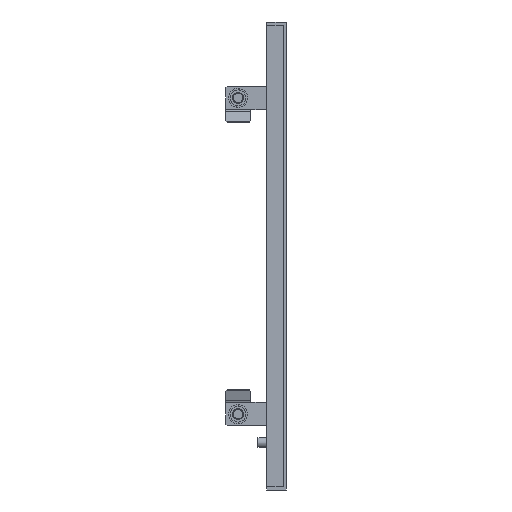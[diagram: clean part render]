
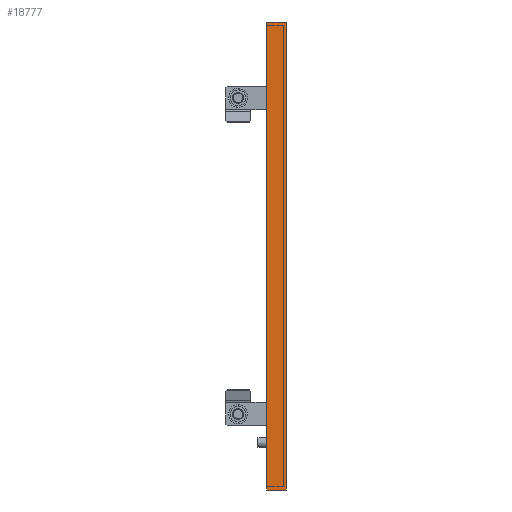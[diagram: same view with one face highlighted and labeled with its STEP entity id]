
A CAD part, front view. The second image highlights one B-rep face of the part: STEP entity #18777.
In plain terms, the highlighted planar face has unit normal (0, -1, 0).
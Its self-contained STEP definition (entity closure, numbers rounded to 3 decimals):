
#431 = CARTESIAN_POINT ( 'NONE',  ( 0., -397.5, -148. ) ) ;
#930 = ORIENTED_EDGE ( 'NONE', *, *, #22024, .F. ) ;
#2326 = ORIENTED_EDGE ( 'NONE', *, *, #18556, .T. ) ;
#2424 = VECTOR ( 'NONE', #13433, 1000. ) ;
#2650 = VECTOR ( 'NONE', #24868, 1000. ) ;
#3313 = LINE ( 'NONE', #19166, #4425 ) ;
#4425 = VECTOR ( 'NONE', #24782, 1000. ) ;
#5634 = LINE ( 'NONE', #15097, #2424 ) ;
#6379 = LINE ( 'NONE', #11634, #12174 ) ;
#7010 = DIRECTION ( 'NONE',  ( 0., 1., 0. ) ) ;
#8652 = VERTEX_POINT ( 'NONE', #17385 ) ;
#9266 = LINE ( 'NONE', #17323, #2650 ) ;
#9739 = AXIS2_PLACEMENT_3D ( 'NONE', #18787, #7010, #20191 ) ;
#10708 = CARTESIAN_POINT ( 'NONE',  ( -12.5, -397.5, -148. ) ) ;
#11359 = CARTESIAN_POINT ( 'NONE',  ( -12.5, -397.5, 148. ) ) ;
#11634 = CARTESIAN_POINT ( 'NONE',  ( -12.5, -397.5, 0. ) ) ;
#12174 = VECTOR ( 'NONE', #13916, 1000. ) ;
#13433 = DIRECTION ( 'NONE',  ( -1., 0., 0. ) ) ;
#13916 = DIRECTION ( 'NONE',  ( 0., 0., -1. ) ) ;
#15097 = CARTESIAN_POINT ( 'NONE',  ( 2.928, -397.5, 148. ) ) ;
#15266 = ORIENTED_EDGE ( 'NONE', *, *, #16325, .T. ) ;
#16325 = EDGE_CURVE ( 'NONE', #17767, #22681, #6379, .T. ) ;
#17323 = CARTESIAN_POINT ( 'NONE',  ( 2.928, -397.5, -148. ) ) ;
#17385 = CARTESIAN_POINT ( 'NONE',  ( 0., -397.5, 148. ) ) ;
#17637 = EDGE_LOOP ( 'NONE', ( #930, #23984, #2326, #15266 ) ) ;
#17767 = VERTEX_POINT ( 'NONE', #11359 ) ;
#18404 = PLANE ( 'NONE',  #9739 ) ;
#18556 = EDGE_CURVE ( 'NONE', #8652, #17767, #5634, .T. ) ;
#18777 = ADVANCED_FACE ( 'NONE', ( #20560 ), #18404, .F. ) ;
#18787 = CARTESIAN_POINT ( 'NONE',  ( -2., -397.5, 0. ) ) ;
#18830 = EDGE_CURVE ( 'NONE', #24492, #8652, #3313, .T. ) ;
#19166 = CARTESIAN_POINT ( 'NONE',  ( 0., -397.5, 0. ) ) ;
#20191 = DIRECTION ( 'NONE',  ( 0., 0., -1. ) ) ;
#20560 = FACE_OUTER_BOUND ( 'NONE', #17637, .T. ) ;
#22024 = EDGE_CURVE ( 'NONE', #24492, #22681, #9266, .T. ) ;
#22681 = VERTEX_POINT ( 'NONE', #10708 ) ;
#23984 = ORIENTED_EDGE ( 'NONE', *, *, #18830, .T. ) ;
#24492 = VERTEX_POINT ( 'NONE', #431 ) ;
#24782 = DIRECTION ( 'NONE',  ( 0., 0., 1. ) ) ;
#24868 = DIRECTION ( 'NONE',  ( -1., 0., 0. ) ) ;
